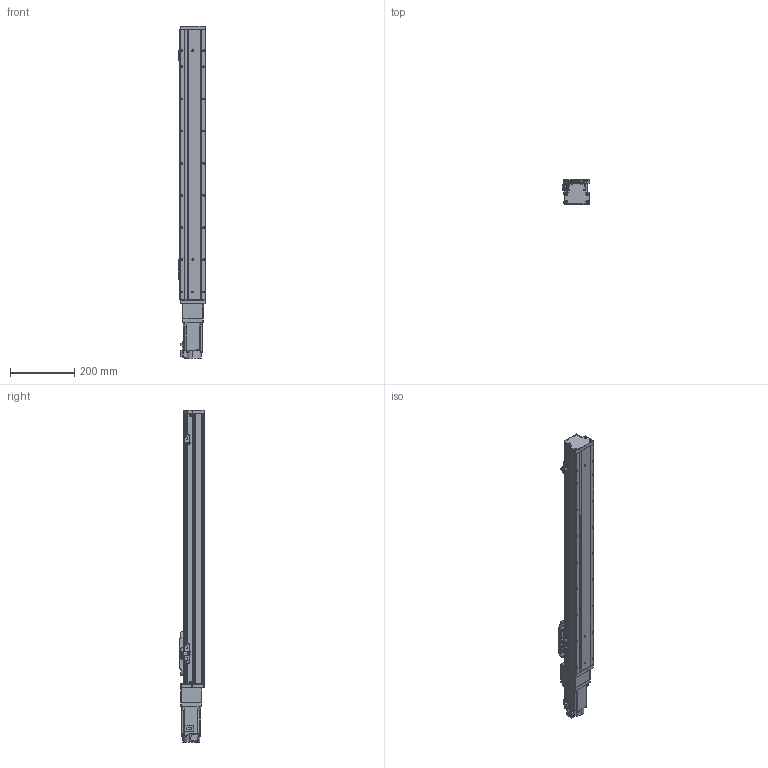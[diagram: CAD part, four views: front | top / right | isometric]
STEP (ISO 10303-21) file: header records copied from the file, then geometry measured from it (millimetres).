
FILE_DESCRIPTION (( 'STEP AP203' ), '1' );
FILE_NAME ('GTH8-650-BC-M20-C4.step', '2022-09-23T00:55:44', ( '微软用户' ), ( '微软中国' ), 'SwSTEP 2.0', 'SolidWorks 2020', '' );
FILE_SCHEMA (( 'CONFIG_CONTROL_DESIGN' ));
Length unit declared in the file: millimetre
Products named in the file (19): GTH80-006; GTH50-024; hg-kn43j_-s100_; GTH80-013; GTH50-023; GTH8-650-BC-M20-C4; GBT 70.3-M3℅6; GBT96.1-2002 3×0.8; GTH80-022; BTH-M3X5X6; GTH80-001_650; GBT 70.1-M3℅6; CTHA86-006-1_CTHA86-006-2; GTH80-003; GBT 70.1-M4×16; CTHA86-013; GTH80-004; GTH80-028; CTHA86-027
Assembly tree (60 placements, depth 2):
  GTH8-650-BC-M20-C4
    GTH80-001_650
    GTH80-003
    GTH80-004
    GTH80-006
    GTH80-013
    GBT 70.3-M3℅6  x6
    GTH80-022
    GBT 70.1-M3℅6  x14
    GBT 70.1-M4×16  x8
    GTH80-028  x2
    GTH50-024  x3
    GTH50-023  x3
    GBT96.1-2002 3×0.8  x6
    BTH-M3X5X6  x8
    CTHA86-006-1_CTHA86-006-2
    CTHA86-013
    CTHA86-027
    hg-kn43j_-s100_
Bounding box: 86.9 x 78 x 1032.7 mm (x, y, z)
Volume: 4445454.8 mm3; surface area: 465077.8 mm2
Topology: 62 solids, 62 shells, 2235 faces, 5140 edges, 3131 vertices
Faces by surface type: plane 1173, cylinder 605, cone 285, torus 162, sphere 8, bspline 2
Entity records: 38964 total; most frequent: CARTESIAN_POINT 6431, DIRECTION 6394, ORIENTED_EDGE 5870, EDGE_CURVE 2935, AXIS2_PLACEMENT_3D 2236, VECTOR 1922, LINE 1922, VERTEX_POINT 1844
